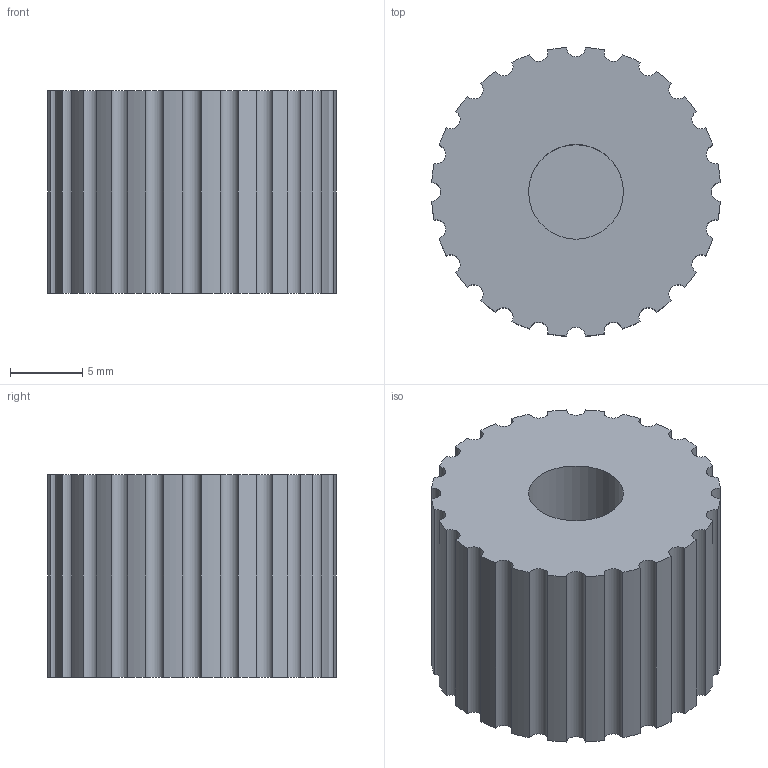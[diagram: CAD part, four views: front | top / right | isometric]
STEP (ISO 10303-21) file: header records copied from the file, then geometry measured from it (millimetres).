
FILE_DESCRIPTION(('Open CASCADE Model'),'2;1');
FILE_NAME('Open CASCADE Shape Model','2026-09-13T14:18:06',('Author'),( 'Open CASCADE'),'Open CASCADE STEP processor 7.9','Open CASCADE 7.9' ,'Unknown');
FILE_SCHEMA(('AUTOMOTIVE_DESIGN { 1 0 10303 214 1 1 1 1 }'));
Length unit declared in the file: millimetre
Products named in the file (1): Open CASCADE STEP translator 7.9 18
Bounding box: 19.96 x 19.96 x 14 mm (x, y, z)
Volume: 3804.6 mm3; surface area: 1945.1 mm2
Topology: 1 solids, 1 shells, 57 faces, 159 edges, 106 vertices
Faces by surface type: cylinder 49, plane 8
Full cylindrical faces by diameter (mm): 6.55 x1
Entity records: 3897 total; most frequent: CARTESIAN_POINT 811, DIRECTION 576, ORIENTED_EDGE 318, PCURVE 318, DEFINITIONAL_REPRESENTATION 318, CIRCLE 185, LINE 177, VECTOR 177
